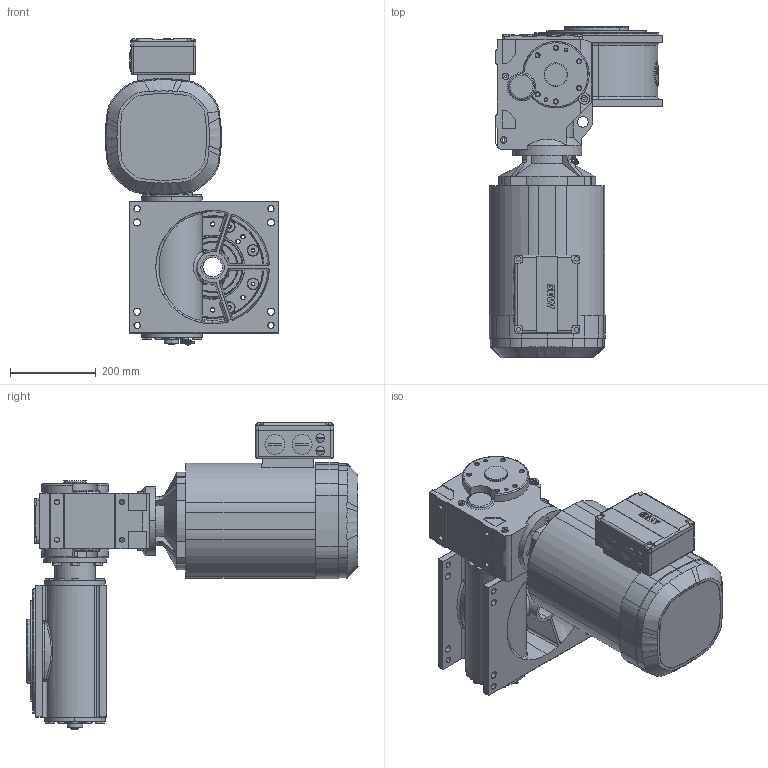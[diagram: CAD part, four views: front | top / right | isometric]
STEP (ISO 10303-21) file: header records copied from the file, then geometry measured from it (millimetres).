
FILE_DESCRIPTION (( 'STEP AP214' ), '1' );
FILE_NAME ('M235_SEW_KA67DRE160S4_D2_08.STEP', '2020-06-17T05:42:55', ( '' ), ( '' ), 'SwSTEP 2.0', 'SolidWorks 2020', '' );
FILE_SCHEMA (( 'AUTOMOTIVE_DESIGN' ));
Length unit declared in the file: millimetre
Products named in the file (1): M235_SEW_KA67DRE160S4_D2_08
Bounding box: 404.17 x 774 x 714 mm (x, y, z)
Surface area: 1588465.4 mm2 (no closed solid volume)
Topology: 0 solids, 95 shells, 1573 faces, 4975 edges, 3384 vertices
Faces by surface type: plane 633, cylinder 511, cone 283, bspline 101, torus 29, sphere 16
Entity records: 88186 total; most frequent: CARTESIAN_POINT 28460, DIRECTION 8697, ORIENTED_EDGE 8215, EDGE_CURVE 4961, VERTEX_POINT 3384, AXIS2_PLACEMENT_3D 3196, VECTOR 2305, LINE 2305
